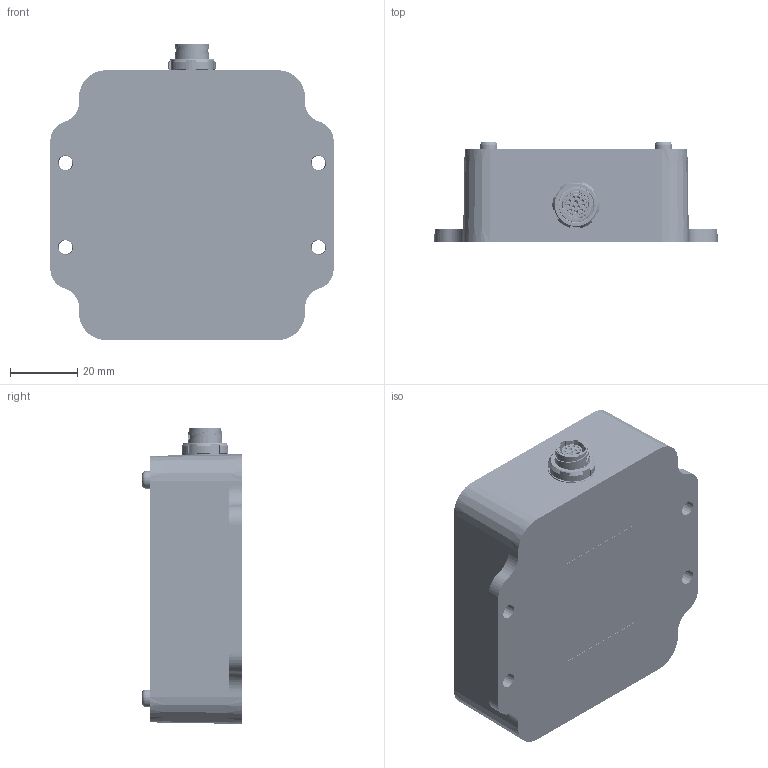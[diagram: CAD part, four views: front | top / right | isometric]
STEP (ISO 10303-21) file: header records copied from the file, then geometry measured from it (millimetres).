
FILE_DESCRIPTION (( 'STEP AP214' ), '1' );
FILE_NAME ('840-103284-Cust-A-InterfaceBoxAssembly.STEP', '2021-09-18T00:17:15', ( '' ), ( '' ), 'SwSTEP 2.0', 'SolidWorks 2020', '' );
FILE_SCHEMA (( 'AUTOMOTIVE_DESIGN' ));
Length unit declared in the file: millimetre
Products named in the file (16): 96817A904_THREAD-FORMING SCREW FOR THIN PLASTIC_96817A904; ibox_layout; Sinbon Bayonet type connector20200429_nut_only; ibox_pcb_assembly_For Production; 830-103125-B_INTERFACE_PCBA_0531; connector_assembly_2p1_Sinbon; Assem1^connector_assembly_2p1; ibox_label; 513380374; compression_foam_external_connector_flex_2p1; ibox_base; Sinbon Bayonet type connector20200429_no_nut; 840-103284-Cust-A-InterfaceBoxAssembly; layout_2p1; ibox_lid; sinbon_flex_2p1
Assembly tree (20 placements, depth 4):
  ibox_layout
  840-103284-Cust-A-InterfaceBoxAssembly
    ibox_base
    ibox_label
    ibox_lid
    ibox_pcb_assembly_For Production
      830-103125-B_INTERFACE_PCBA_0531
    96817A904_THREAD-FORMING SCREW FOR THIN PLASTIC_96817A904  x8
    connector_assembly_2p1_Sinbon
      513380374
      sinbon_flex_2p1
      Assem1^connector_assembly_2p1
        Sinbon Bayonet type connector20200429_no_nut
        Sinbon Bayonet type connector20200429_nut_only
    compression_foam_external_connector_flex_2p1
  layout_2p1
Bounding box: 84 x 29.8 x 87.77 mm (x, y, z)
Volume: 56975.7 mm3; surface area: 64334.3 mm2
Topology: 62 solids, 147 shells, 6787 faces, 18385 edges, 11924 vertices
Faces by surface type: plane 4450, cylinder 1440, cone 515, bspline 258, torus 106, sphere 18
Entity records: 281715 total; most frequent: CARTESIAN_POINT 91431, ORIENTED_EDGE 34490, DIRECTION 30215, EDGE_CURVE 17253, VECTOR 12591, LINE 12591, VERTEX_POINT 11187, AXIS2_PLACEMENT_3D 8812
